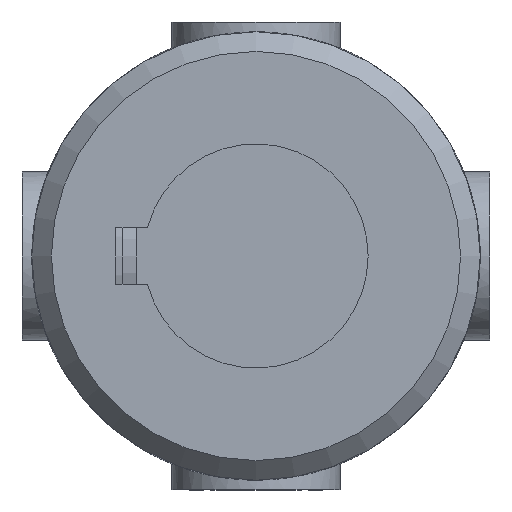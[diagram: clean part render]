
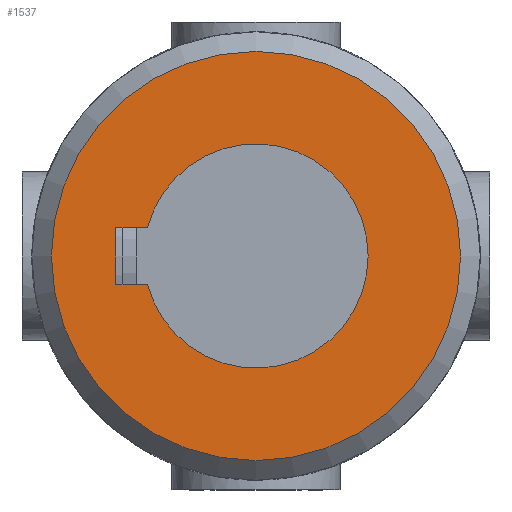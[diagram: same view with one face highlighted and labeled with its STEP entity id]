
A CAD part, front view. The second image highlights one B-rep face of the part: STEP entity #1537.
In plain terms, the highlighted planar face has unit normal (0, -1, 0).
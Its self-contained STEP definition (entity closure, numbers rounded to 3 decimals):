
#110=LINE('',#2935,#167);
#115=LINE('',#2952,#172);
#116=LINE('',#2961,#173);
#167=VECTOR('',#2019,1.127);
#172=VECTOR('',#2030,1.127);
#173=VECTOR('',#2033,2.);
#223=PLANE('',#1694);
#352=FACE_BOUND('',#565,.T.);
#432=FACE_OUTER_BOUND('',#564,.T.);
#564=EDGE_LOOP('',(#1340));
#565=EDGE_LOOP('',(#1341,#1342,#1343,#1344));
#645=CIRCLE('',#1682,4.);
#650=CIRCLE('',#1692,7.3);
#772=VERTEX_POINT('',#2924);
#773=VERTEX_POINT('',#2926);
#775=VERTEX_POINT('',#2934);
#781=VERTEX_POINT('',#2950);
#783=VERTEX_POINT('',#2967);
#960=EDGE_CURVE('',#773,#772,#645,.T.);
#963=EDGE_CURVE('',#775,#773,#110,.T.);
#971=EDGE_CURVE('',#772,#781,#115,.T.);
#973=EDGE_CURVE('',#781,#775,#116,.T.);
#976=EDGE_CURVE('',#783,#783,#650,.T.);
#1340=ORIENTED_EDGE('',*,*,#976,.F.);
#1341=ORIENTED_EDGE('',*,*,#971,.T.);
#1342=ORIENTED_EDGE('',*,*,#973,.T.);
#1343=ORIENTED_EDGE('',*,*,#963,.T.);
#1344=ORIENTED_EDGE('',*,*,#960,.T.);
#1537=ADVANCED_FACE('',(#432,#352),#223,.F.);
#1682=AXIS2_PLACEMENT_3D('',#2927,#2014,#2015);
#1692=AXIS2_PLACEMENT_3D('',#2968,#2042,#2043);
#1694=AXIS2_PLACEMENT_3D('',#3136,#2050,#2051);
#2014=DIRECTION('center_axis',(0.,1.,0.));
#2015=DIRECTION('ref_axis',(-0.25,0.,0.968));
#2019=DIRECTION('',(0.,0.,1.));
#2030=DIRECTION('',(0.,0.,-1.));
#2033=DIRECTION('',(-1.,0.,0.));
#2042=DIRECTION('center_axis',(0.,1.,0.));
#2043=DIRECTION('ref_axis',(1.,0.,0.));
#2050=DIRECTION('center_axis',(0.,1.,0.));
#2051=DIRECTION('ref_axis',(0.,0.,1.));
#2924=CARTESIAN_POINT('',(1.,-24.,-3.873));
#2926=CARTESIAN_POINT('',(-1.,-24.,-3.873));
#2927=CARTESIAN_POINT('Origin',(0.,-24.,0.));
#2934=CARTESIAN_POINT('',(-1.,-24.,-5.));
#2935=CARTESIAN_POINT('',(-1.,-24.,-2.5));
#2950=CARTESIAN_POINT('',(1.,-24.,-5.));
#2952=CARTESIAN_POINT('',(1.,-24.,-1.936));
#2961=CARTESIAN_POINT('',(0.5,-24.,-5.));
#2967=CARTESIAN_POINT('',(-7.3,-24.,0.));
#2968=CARTESIAN_POINT('Origin',(0.,-24.,0.));
#3136=CARTESIAN_POINT('Origin',(0.,-24.,0.));
